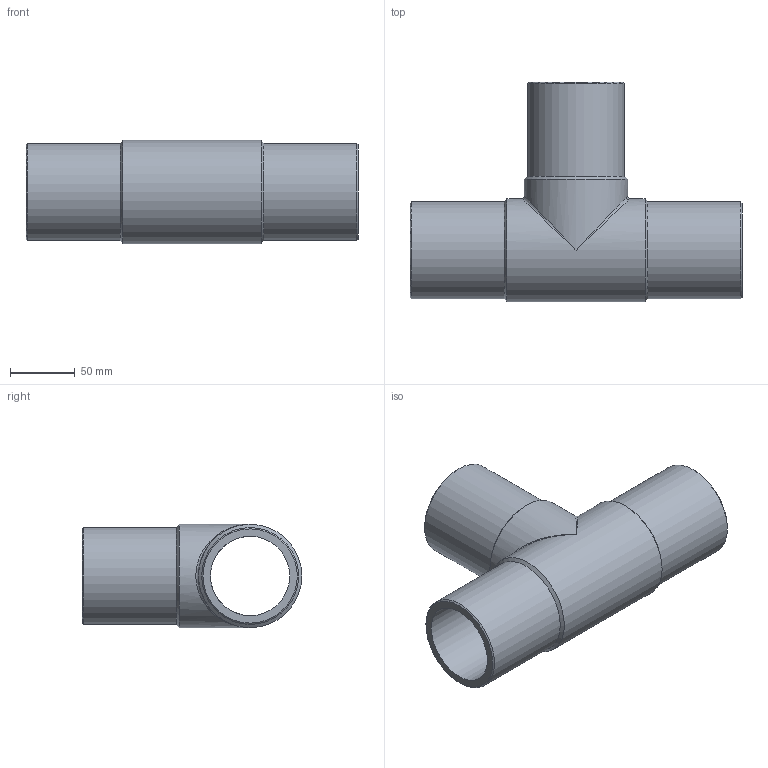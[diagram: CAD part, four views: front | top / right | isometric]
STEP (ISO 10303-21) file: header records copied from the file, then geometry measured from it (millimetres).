
FILE_DESCRIPTION(/* description */ ('Unknown'),/* implementation_level */ '2;1');
FILE_NAME(/* name */ 'TP075C',/* time_stamp */ '2021-08-12T16:00:40+02:00',/* author */ ('Unknown'),/* organization */ ('Unknown'),/* preprocessor_version */ 'ST-DEVELOPER v16.7',/* originating_system */ 'Solid Edge',/* authorisation */ 'Unknown');
FILE_SCHEMA (('AUTOMOTIVE_DESIGN {1 0 10303 214 3 1 1}'));
Length unit declared in the file: millimetre
Products named in the file (1): TP075C
Bounding box: 257 x 170 x 80 mm (x, y, z)
Volume: 570481.7 mm3; surface area: 152833.1 mm2
Topology: 1 solids, 1 shells, 18 faces, 44 edges, 23 vertices
Faces by surface type: cylinder 7, cone 6, plane 3, bspline 2
Full cylindrical faces by diameter (mm): 61.4 x2, 75 x3, 80 x2
Entity records: 504 total; most frequent: CARTESIAN_POINT 147, DIRECTION 76, ORIENTED_EDGE 42, AXIS2_PLACEMENT_3D 38, EDGE_LOOP 36, FACE_BOUND 36, EDGE_CURVE 21, VERTEX_POINT 19
